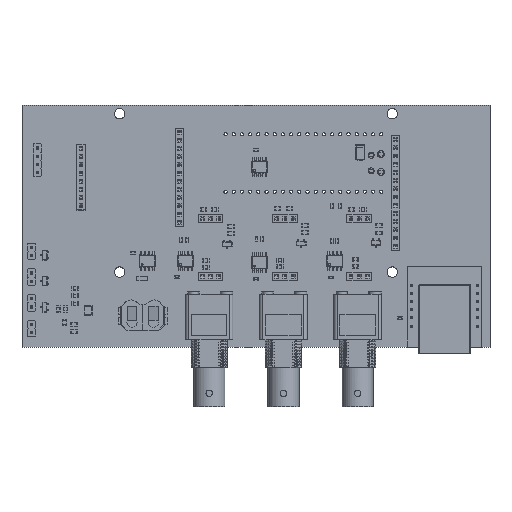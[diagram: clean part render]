
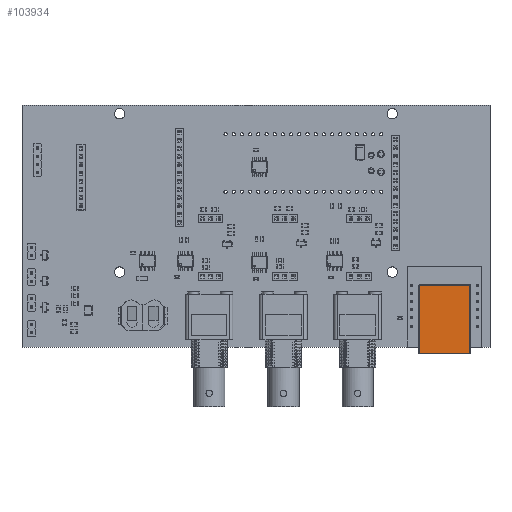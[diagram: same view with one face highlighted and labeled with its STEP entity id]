
A CAD part, top view. The second image highlights one B-rep face of the part: STEP entity #103934.
In plain terms, the highlighted planar face has unit normal (0, 0, 1).
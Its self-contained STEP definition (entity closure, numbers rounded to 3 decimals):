
#102346 = VERTEX_POINT('',#102347);
#102347 = CARTESIAN_POINT('',(3.55,5.8,15.4));
#102565 = VERTEX_POINT('',#102566);
#102566 = CARTESIAN_POINT('',(3.55,27.,15.4));
#102638 = VERTEX_POINT('',#102639);
#102639 = CARTESIAN_POINT('',(19.25,5.8,15.4));
#102748 = EDGE_CURVE('',#102346,#102638,#102749,.T.);
#102749 = B_SPLINE_CURVE_WITH_KNOTS('',1,(#102750,#102751),
  .UNSPECIFIED.,.F.,.F.,(2,2),(0.,15.7),.PIECEWISE_BEZIER_KNOTS.);
#102750 = CARTESIAN_POINT('',(3.55,5.8,15.4));
#102751 = CARTESIAN_POINT('',(19.25,5.8,15.4));
#102893 = VERTEX_POINT('',#102894);
#102894 = CARTESIAN_POINT('',(19.25,27.,15.4));
#103139 = EDGE_CURVE('',#102638,#102893,#103140,.T.);
#103140 = B_SPLINE_CURVE_WITH_KNOTS('',1,(#103141,#103142),
  .UNSPECIFIED.,.F.,.F.,(2,2),(0.,21.2),.PIECEWISE_BEZIER_KNOTS.);
#103141 = CARTESIAN_POINT('',(19.25,5.8,15.4));
#103142 = CARTESIAN_POINT('',(19.25,27.,15.4));
#103169 = EDGE_CURVE('',#102893,#102565,#103170,.T.);
#103170 = B_SPLINE_CURVE_WITH_KNOTS('',1,(#103171,#103172),
  .UNSPECIFIED.,.F.,.F.,(2,2),(0.,15.7),.PIECEWISE_BEZIER_KNOTS.);
#103171 = CARTESIAN_POINT('',(19.25,27.,15.4));
#103172 = CARTESIAN_POINT('',(3.55,27.,15.4));
#103502 = EDGE_CURVE('',#102565,#102346,#103503,.T.);
#103503 = B_SPLINE_CURVE_WITH_KNOTS('',1,(#103504,#103505),
  .UNSPECIFIED.,.F.,.F.,(2,2),(0.,21.2),.PIECEWISE_BEZIER_KNOTS.);
#103504 = CARTESIAN_POINT('',(3.55,27.,15.4));
#103505 = CARTESIAN_POINT('',(3.55,5.8,15.4));
#103934 = ADVANCED_FACE('',(#103935),#103941,.T.);
#103935 = FACE_BOUND('',#103936,.T.);
#103936 = EDGE_LOOP('',(#103937,#103938,#103939,#103940));
#103937 = ORIENTED_EDGE('',*,*,#103139,.T.);
#103938 = ORIENTED_EDGE('',*,*,#103169,.T.);
#103939 = ORIENTED_EDGE('',*,*,#103502,.T.);
#103940 = ORIENTED_EDGE('',*,*,#102748,.T.);
#103941 = PLANE('',#103942);
#103942 = AXIS2_PLACEMENT_3D('',#103943,#103944,#103945);
#103943 = CARTESIAN_POINT('',(1.86,29.24,15.4));
#103944 = DIRECTION('',(0.,0.,1.));
#103945 = DIRECTION('',(1.,0.,-0.));
